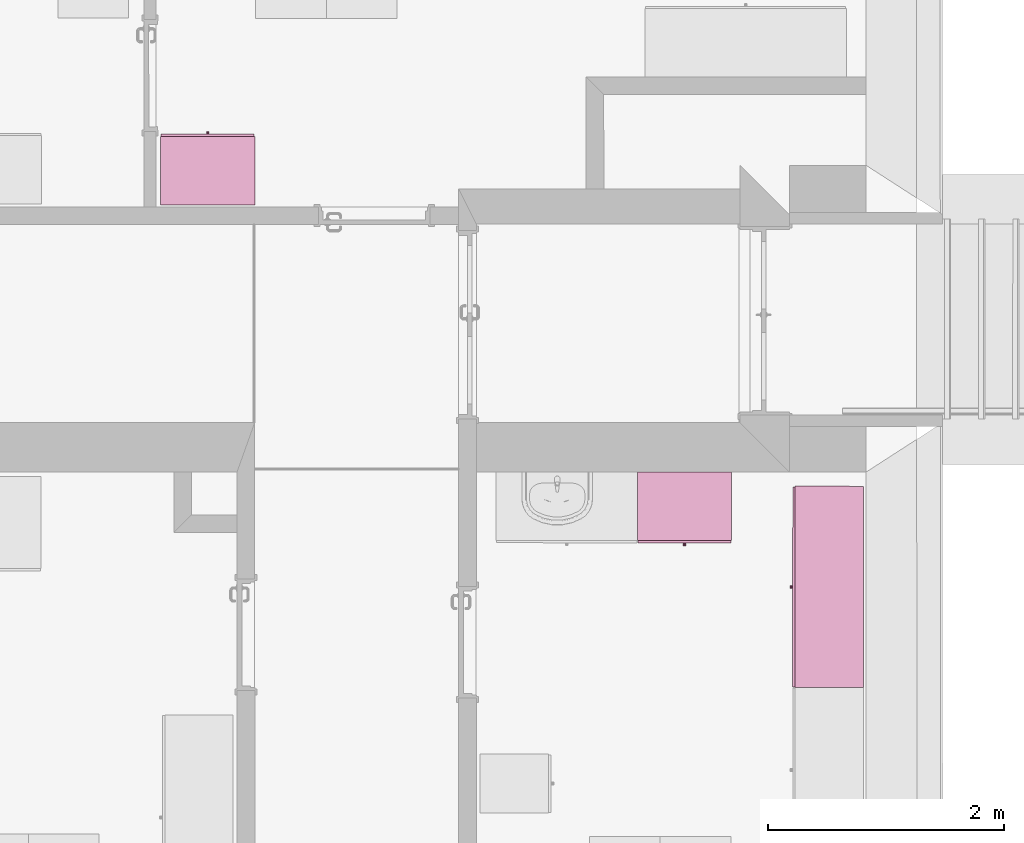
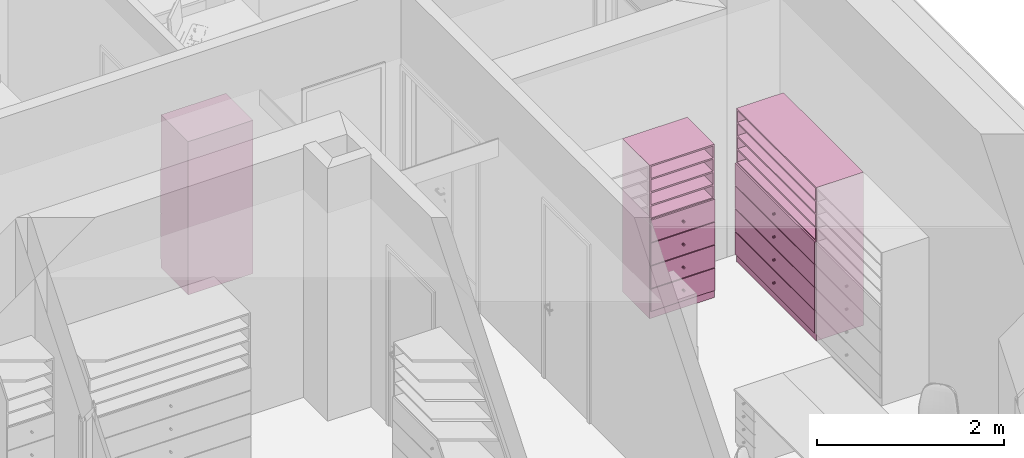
# One storey, part 145 of 194: 3 furnishings.
"""IFC2X3 building model written with IfcOpenShell, lengths in millimetres."""

from ifc_helpers import new_model, entity, si_unit, converted_unit, derived_unit, money_unit, direction, frame, origin_with_axes, place, context, subcontext, project, spatial, faceted_brep, source, transform, mapped, type_object, element, save


model = new_model("IFC2X3")

# Units and contexts
model_context = context("Model", 3, precision=1e-05, world=origin_with_axes(), true_north=direction((0.0, 1.0)))
body_context = subcontext(model_context, "Body", "Model", "MODEL_VIEW")
ifc_project = project(units=[si_unit("LENGTHUNIT", "METRE", prefix="MILLI"), si_unit("AREAUNIT", "SQUARE_METRE"), si_unit("VOLUMEUNIT", "CUBIC_METRE"), converted_unit("PLANEANGLEUNIT", "DEGREE", entity("IfcPlaneAngleMeasure", 0.0174532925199), si_unit("PLANEANGLEUNIT", "RADIAN"), dimensions=[0, 0, 0, 0, 0, 0, 0]), si_unit("SOLIDANGLEUNIT", "STERADIAN"), money_unit("EUR"), converted_unit("TIMEUNIT", "Year", entity("IfcTimeMeasure", 31556926.0), si_unit("TIMEUNIT", "SECOND"), dimensions=[0, 0, 1, 0, 0, 0, 0]), si_unit("MASSUNIT", "GRAM", prefix="KILO"), si_unit("THERMODYNAMICTEMPERATUREUNIT", "DEGREE_CELSIUS"), si_unit("LUMINOUSINTENSITYUNIT", "LUMEN"), si_unit("ENERGYUNIT", "JOULE", prefix="MEGA"), derived_unit("THERMALCONDUCTANCEUNIT", [(si_unit("POWERUNIT", "WATT"), 1), (si_unit("LENGTHUNIT", "METRE"), -1), (si_unit("THERMODYNAMICTEMPERATUREUNIT", "KELVIN"), -1)]), derived_unit("SPECIFICHEATCAPACITYUNIT", [(si_unit("ENERGYUNIT", "JOULE"), 1), (si_unit("MASSUNIT", "GRAM", prefix="KILO"), -1), (si_unit("THERMODYNAMICTEMPERATUREUNIT", "KELVIN"), -1)]), derived_unit("MASSDENSITYUNIT", [(si_unit("MASSUNIT", "GRAM", prefix="KILO"), 1), (si_unit("VOLUMEUNIT", "CUBIC_METRE"), -1)])], contexts=[model_context])

# Site, building, storey
site_placement = place(None, origin_with_axes())
site = spatial("IfcSite", under=ifc_project, at=site_placement, Name="Site", CompositionType="ELEMENT")
building_placement = place(site_placement, origin_with_axes())
building = spatial("IfcBuilding", under=site, at=building_placement, Name="Building", CompositionType="ELEMENT")
storey_placement = place(building_placement, frame((0.0, 0.0, 3000.0), z_axis=(0.0, 0.0, 1.0), x_axis=(1.0, 0.0, 0.0)))
storey = spatial("IfcBuildingStorey", under=building, at=storey_placement, Name="2 KORRUS", CompositionType="ELEMENT", Elevation=3000.0)

# Furnishings
furnishing_element_type_1 = type_object("IfcFurnishingElementType", Name="Model Element 35")
shared_shape_1 = source(origin_with_axes(), body_context, "Body", "Brep", [
    faceted_brep([(1709.22062814, 19.0, 0.0), (0.0, 19.0, 0.0), (0.0, 600.0, 0.0), (1709.22062814, 600.0, 0.0), (1709.22062814, 19.0, 100.0), (0.0, 19.0, 100.0), (0.0, 600.0, 100.0), (1709.22062814, 600.0, 100.0)], [[[0, 1, 2, 3]], [[1, 0, 4, 5]], [[2, 1, 5, 6]], [[3, 2, 6, 7]], [[0, 3, 7, 4]], [[5, 4, 7, 6]]]),
    faceted_brep([(19.0, 600.0, 119.0), (19.0, 581.0, 119.0), (19.0, 581.0, 1981.0), (19.0, 600.0, 1981.0), (1690.22062814, 600.0, 119.0), (1690.22062814, 581.0, 119.0), (1690.22062814, 581.0, 1981.0), (1690.22062814, 600.0, 1981.0)], [[[0, 1, 2, 3]], [[0, 4, 5, 1]], [[1, 5, 6, 2]], [[3, 2, 6, 7]], [[4, 0, 3, 7]], [[5, 4, 7, 6]]]),
    faceted_brep([(1709.22062814, 19.0, 100.0), (1690.22062814, 19.0, 100.0), (1690.22062814, 600.0, 100.0), (1709.22062814, 600.0, 100.0), (1709.22062814, 19.0, 2000.0), (1690.22062814, 19.0, 2000.0), (1690.22062814, 600.0, 2000.0), (1709.22062814, 600.0, 2000.0)], [[[0, 1, 2, 3]], [[1, 0, 4, 5]], [[2, 1, 5, 6]], [[3, 2, 6, 7]], [[0, 3, 7, 4]], [[5, 4, 7, 6]]]),
    faceted_brep([(19.0, 19.0, 100.0), (0.0, 19.0, 100.0), (0.0, 600.0, 100.0), (19.0, 600.0, 100.0), (19.0, 19.0, 2000.0), (0.0, 19.0, 2000.0), (0.0, 600.0, 2000.0), (19.0, 600.0, 2000.0)], [[[0, 1, 2, 3]], [[1, 0, 4, 5]], [[2, 1, 5, 6]], [[3, 2, 6, 7]], [[0, 3, 7, 4]], [[5, 4, 7, 6]]]),
    faceted_brep([(1690.22062814, 19.0, 100.0), (19.0, 19.0, 100.0), (19.0, 600.0, 100.0), (1690.22062814, 600.0, 100.0), (1690.22062814, 19.0, 119.0), (19.0, 19.0, 119.0), (19.0, 600.0, 119.0), (1690.22062814, 600.0, 119.0)], [[[0, 1, 2, 3]], [[1, 0, 4, 5]], [[2, 1, 5, 6]], [[3, 2, 6, 7]], [[0, 3, 7, 4]], [[5, 4, 7, 6]]]),
    faceted_brep([(1690.22062814, 19.0, 1981.0), (19.0, 19.0, 1981.0), (19.0, 600.0, 1981.0), (1690.22062814, 600.0, 1981.0), (1690.22062814, 19.0, 2000.0), (19.0, 19.0, 2000.0), (19.0, 600.0, 2000.0), (1690.22062814, 600.0, 2000.0)], [[[0, 1, 2, 3]], [[1, 0, 4, 5]], [[2, 1, 5, 6]], [[3, 2, 6, 7]], [[0, 3, 7, 4]], [[5, 4, 7, 6]]]),
    faceted_brep([(5.0, 19.0, 105.0), (1704.22062814, 19.0, 105.0), (1704.22062814, 0.0, 105.0), (5.0, 0.0, 105.0), (5.0, 19.0, 395.0), (1704.22062814, 19.0, 395.0), (1704.22062814, 0.0, 395.0), (5.0, 0.0, 395.0)], [[[0, 1, 2, 3]], [[0, 4, 5, 1]], [[1, 5, 6, 2]], [[3, 2, 6, 7]], [[4, 0, 3, 7]], [[5, 4, 7, 6]]]),
    faceted_brep([(865.002618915, 0.0, 244.0), (860.610314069, 0.0, 239.607695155), (854.610314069, 0.0, 238.0), (848.610314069, 0.0, 239.607695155), (844.218009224, 0.0, 244.0), (842.610314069, 0.0, 250.0), (844.218009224, 0.0, 256.0), (848.610314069, 0.0, 260.392304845), (854.610314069, 0.0, 262.0), (860.610314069, 0.0, 260.392304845), (865.002618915, 0.0, 256.0), (866.610314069, 0.0, 250.0), (865.002618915, -25.0, 244.0), (860.610314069, -25.0, 239.607695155), (854.610314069, -25.0, 238.0), (848.610314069, -25.0, 239.607695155), (844.218009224, -25.0, 244.0), (842.610314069, -25.0, 250.0), (844.218009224, -25.0, 256.0), (848.610314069, -25.0, 260.392304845), (854.610314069, -25.0, 262.0), (860.610314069, -25.0, 260.392304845), (865.002618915, -25.0, 256.0), (866.610314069, -25.0, 250.0)], [[[0, 1, 2, 3, 4, 5, 6, 7, 8, 9, 10, 11]], [[1, 0, 12, 13]], [[2, 1, 13, 14]], [[3, 2, 14, 15]], [[4, 3, 15, 16]], [[5, 4, 16, 17]], [[6, 5, 17, 18]], [[7, 6, 18, 19]], [[8, 7, 19, 20]], [[9, 8, 20, 21]], [[10, 9, 21, 22]], [[11, 10, 22, 23]], [[0, 11, 23, 12]], [[12, 23, 22, 21, 20, 19, 18, 17, 16, 15, 14, 13]]]),
    faceted_brep([(5.0, 19.0, 405.0), (1704.22062814, 19.0, 405.0), (1704.22062814, 0.0, 405.0), (5.0, 0.0, 405.0), (5.0, 19.0, 695.0), (1704.22062814, 19.0, 695.0), (1704.22062814, 0.0, 695.0), (5.0, 0.0, 695.0)], [[[0, 1, 2, 3]], [[0, 4, 5, 1]], [[1, 5, 6, 2]], [[3, 2, 6, 7]], [[4, 0, 3, 7]], [[5, 4, 7, 6]]]),
    faceted_brep([(865.002618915, 0.0, 544.0), (860.610314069, 0.0, 539.607695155), (854.610314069, 0.0, 538.0), (848.610314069, 0.0, 539.607695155), (844.218009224, 0.0, 544.0), (842.610314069, 0.0, 550.0), (844.218009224, 0.0, 556.0), (848.610314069, 0.0, 560.392304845), (854.610314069, 0.0, 562.0), (860.610314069, 0.0, 560.392304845), (865.002618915, 0.0, 556.0), (866.610314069, 0.0, 550.0), (865.002618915, -25.0, 544.0), (860.610314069, -25.0, 539.607695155), (854.610314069, -25.0, 538.0), (848.610314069, -25.0, 539.607695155), (844.218009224, -25.0, 544.0), (842.610314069, -25.0, 550.0), (844.218009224, -25.0, 556.0), (848.610314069, -25.0, 560.392304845), (854.610314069, -25.0, 562.0), (860.610314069, -25.0, 560.392304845), (865.002618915, -25.0, 556.0), (866.610314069, -25.0, 550.0)], [[[0, 1, 2, 3, 4, 5, 6, 7, 8, 9, 10, 11]], [[1, 0, 12, 13]], [[2, 1, 13, 14]], [[3, 2, 14, 15]], [[4, 3, 15, 16]], [[5, 4, 16, 17]], [[6, 5, 17, 18]], [[7, 6, 18, 19]], [[8, 7, 19, 20]], [[9, 8, 20, 21]], [[10, 9, 21, 22]], [[11, 10, 22, 23]], [[0, 11, 23, 12]], [[12, 23, 22, 21, 20, 19, 18, 17, 16, 15, 14, 13]]]),
    faceted_brep([(5.0, 19.0, 705.0), (1704.22062814, 19.0, 705.0), (1704.22062814, 0.0, 705.0), (5.0, 0.0, 705.0), (5.0, 19.0, 995.0), (1704.22062814, 19.0, 995.0), (1704.22062814, 0.0, 995.0), (5.0, 0.0, 995.0)], [[[0, 1, 2, 3]], [[0, 4, 5, 1]], [[1, 5, 6, 2]], [[3, 2, 6, 7]], [[4, 0, 3, 7]], [[5, 4, 7, 6]]]),
    faceted_brep([(865.002618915, 0.0, 844.0), (860.610314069, 0.0, 839.607695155), (854.610314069, 0.0, 838.0), (848.610314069, 0.0, 839.607695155), (844.218009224, 0.0, 844.0), (842.610314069, 0.0, 850.0), (844.218009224, 0.0, 856.0), (848.610314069, 0.0, 860.392304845), (854.610314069, 0.0, 862.0), (860.610314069, 0.0, 860.392304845), (865.002618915, 0.0, 856.0), (866.610314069, 0.0, 850.0), (865.002618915, -25.0, 844.0), (860.610314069, -25.0, 839.607695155), (854.610314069, -25.0, 838.0), (848.610314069, -25.0, 839.607695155), (844.218009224, -25.0, 844.0), (842.610314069, -25.0, 850.0), (844.218009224, -25.0, 856.0), (848.610314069, -25.0, 860.392304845), (854.610314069, -25.0, 862.0), (860.610314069, -25.0, 860.392304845), (865.002618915, -25.0, 856.0), (866.610314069, -25.0, 850.0)], [[[0, 1, 2, 3, 4, 5, 6, 7, 8, 9, 10, 11]], [[1, 0, 12, 13]], [[2, 1, 13, 14]], [[3, 2, 14, 15]], [[4, 3, 15, 16]], [[5, 4, 16, 17]], [[6, 5, 17, 18]], [[7, 6, 18, 19]], [[8, 7, 19, 20]], [[9, 8, 20, 21]], [[10, 9, 21, 22]], [[11, 10, 22, 23]], [[0, 11, 23, 12]], [[12, 23, 22, 21, 20, 19, 18, 17, 16, 15, 14, 13]]]),
    faceted_brep([(5.0, 19.0, 1005.0), (1704.22062814, 19.0, 1005.0), (1704.22062814, 0.0, 1005.0), (5.0, 0.0, 1005.0), (5.0, 19.0, 1295.0), (1704.22062814, 19.0, 1295.0), (1704.22062814, 0.0, 1295.0), (5.0, 0.0, 1295.0)], [[[0, 1, 2, 3]], [[0, 4, 5, 1]], [[1, 5, 6, 2]], [[3, 2, 6, 7]], [[4, 0, 3, 7]], [[5, 4, 7, 6]]]),
    faceted_brep([(865.002618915, 0.0, 1144.0), (860.610314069, 0.0, 1139.60769515), (854.610314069, 0.0, 1138.0), (848.610314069, 0.0, 1139.60769515), (844.218009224, 0.0, 1144.0), (842.610314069, 0.0, 1150.0), (844.218009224, 0.0, 1156.0), (848.610314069, 0.0, 1160.39230485), (854.610314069, 0.0, 1162.0), (860.610314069, 0.0, 1160.39230485), (865.002618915, 0.0, 1156.0), (866.610314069, 0.0, 1150.0), (865.002618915, -25.0, 1144.0), (860.610314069, -25.0, 1139.60769515), (854.610314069, -25.0, 1138.0), (848.610314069, -25.0, 1139.60769515), (844.218009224, -25.0, 1144.0), (842.610314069, -25.0, 1150.0), (844.218009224, -25.0, 1156.0), (848.610314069, -25.0, 1160.39230485), (854.610314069, -25.0, 1162.0), (860.610314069, -25.0, 1160.39230485), (865.002618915, -25.0, 1156.0), (866.610314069, -25.0, 1150.0)], [[[0, 1, 2, 3, 4, 5, 6, 7, 8, 9, 10, 11]], [[1, 0, 12, 13]], [[2, 1, 13, 14]], [[3, 2, 14, 15]], [[4, 3, 15, 16]], [[5, 4, 16, 17]], [[6, 5, 17, 18]], [[7, 6, 18, 19]], [[8, 7, 19, 20]], [[9, 8, 20, 21]], [[10, 9, 21, 22]], [[11, 10, 22, 23]], [[0, 11, 23, 12]], [[12, 23, 22, 21, 20, 19, 18, 17, 16, 15, 14, 13]]]),
    faceted_brep([(19.0, 19.0, 390.5), (1690.22062814, 19.0, 390.5), (1690.22062814, 19.0, 409.5), (19.0, 19.0, 409.5), (19.0, 581.0, 390.5), (1690.22062814, 581.0, 390.5), (1690.22062814, 581.0, 409.5), (19.0, 581.0, 409.5)], [[[0, 1, 2, 3]], [[0, 4, 5, 1]], [[1, 5, 6, 2]], [[3, 2, 6, 7]], [[4, 0, 3, 7]], [[5, 4, 7, 6]]]),
    faceted_brep([(19.0, 19.0, 690.5), (1690.22062814, 19.0, 690.5), (1690.22062814, 19.0, 709.5), (19.0, 19.0, 709.5), (19.0, 581.0, 690.5), (1690.22062814, 581.0, 690.5), (1690.22062814, 581.0, 709.5), (19.0, 581.0, 709.5)], [[[0, 1, 2, 3]], [[0, 4, 5, 1]], [[1, 5, 6, 2]], [[3, 2, 6, 7]], [[4, 0, 3, 7]], [[5, 4, 7, 6]]]),
    faceted_brep([(19.0, 19.0, 990.5), (1690.22062814, 19.0, 990.5), (1690.22062814, 19.0, 1009.5), (19.0, 19.0, 1009.5), (19.0, 581.0, 990.5), (1690.22062814, 581.0, 990.5), (1690.22062814, 581.0, 1009.5), (19.0, 581.0, 1009.5)], [[[0, 1, 2, 3]], [[0, 4, 5, 1]], [[1, 5, 6, 2]], [[3, 2, 6, 7]], [[4, 0, 3, 7]], [[5, 4, 7, 6]]]),
    faceted_brep([(19.0, 19.0, 1290.5), (1690.22062814, 19.0, 1290.5), (1690.22062814, 19.0, 1309.5), (19.0, 19.0, 1309.5), (19.0, 581.0, 1290.5), (1690.22062814, 581.0, 1290.5), (1690.22062814, 581.0, 1309.5), (19.0, 581.0, 1309.5)], [[[0, 1, 2, 3]], [[0, 4, 5, 1]], [[1, 5, 6, 2]], [[3, 2, 6, 7]], [[4, 0, 3, 7]], [[5, 4, 7, 6]]]),
    faceted_brep([(1690.22062814, 19.0, 1463.125), (19.0, 19.0, 1463.125), (19.0, 581.0, 1463.125), (1690.22062814, 581.0, 1463.125), (1690.22062814, 19.0, 1482.125), (19.0, 19.0, 1482.125), (19.0, 581.0, 1482.125), (1690.22062814, 581.0, 1482.125)], [[[0, 1, 2, 3]], [[1, 0, 4, 5]], [[2, 1, 5, 6]], [[3, 2, 6, 7]], [[0, 3, 7, 4]], [[5, 4, 7, 6]]]),
    faceted_brep([(1690.22062814, 19.0, 1635.75), (19.0, 19.0, 1635.75), (19.0, 581.0, 1635.75), (1690.22062814, 581.0, 1635.75), (1690.22062814, 19.0, 1654.75), (19.0, 19.0, 1654.75), (19.0, 581.0, 1654.75), (1690.22062814, 581.0, 1654.75)], [[[0, 1, 2, 3]], [[1, 0, 4, 5]], [[2, 1, 5, 6]], [[3, 2, 6, 7]], [[0, 3, 7, 4]], [[5, 4, 7, 6]]]),
    faceted_brep([(1690.22062814, 19.0, 1808.375), (19.0, 19.0, 1808.375), (19.0, 581.0, 1808.375), (1690.22062814, 581.0, 1808.375), (1690.22062814, 19.0, 1827.375), (19.0, 19.0, 1827.375), (19.0, 581.0, 1827.375), (1690.22062814, 581.0, 1827.375)], [[[0, 1, 2, 3]], [[1, 0, 4, 5]], [[2, 1, 5, 6]], [[3, 2, 6, 7]], [[0, 3, 7, 4]], [[5, 4, 7, 6]]]),
])
furnishing_placement = place(storey_placement, frame((42570.7992562, 65090.4139508, 0.0), z_axis=(0.0, 0.0, 1.0), x_axis=(-0.00064265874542, -0.999999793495, 0.0)))
element("IfcFurnishingElement", 1, at=furnishing_placement, inside=storey, type_object=furnishing_element_type_1, Name="FU - 001", context=body_context, shape_type="MappedRepresentation", body=[
    mapped(shared_shape_1, transform((0.0, 0.0, 0.0))),
])
furnishing_element_type_2 = type_object("IfcFurnishingElementType", Name="Model Element 41")
shared_shape_2 = source(origin_with_axes(), body_context, "Body", "Brep", [
    faceted_brep([(800.0, 19.0, 0.0), (0.0, 19.0, 0.0), (0.0, 600.0, 0.0), (800.0, 600.0, 0.0), (800.0, 19.0, 100.0), (0.0, 19.0, 100.0), (0.0, 600.0, 100.0), (800.0, 600.0, 100.0)], [[[0, 1, 2, 3]], [[1, 0, 4, 5]], [[2, 1, 5, 6]], [[3, 2, 6, 7]], [[0, 3, 7, 4]], [[5, 4, 7, 6]]]),
    faceted_brep([(19.0, 600.0, 119.0), (19.0, 581.0, 119.0), (19.0, 581.0, 1981.0), (19.0, 600.0, 1981.0), (781.0, 600.0, 119.0), (781.0, 581.0, 119.0), (781.0, 581.0, 1981.0), (781.0, 600.0, 1981.0)], [[[0, 1, 2, 3]], [[0, 4, 5, 1]], [[1, 5, 6, 2]], [[3, 2, 6, 7]], [[4, 0, 3, 7]], [[5, 4, 7, 6]]]),
    faceted_brep([(800.0, 19.0, 100.0), (781.0, 19.0, 100.0), (781.0, 600.0, 100.0), (800.0, 600.0, 100.0), (800.0, 19.0, 2000.0), (781.0, 19.0, 2000.0), (781.0, 600.0, 2000.0), (800.0, 600.0, 2000.0)], [[[0, 1, 2, 3]], [[1, 0, 4, 5]], [[2, 1, 5, 6]], [[3, 2, 6, 7]], [[0, 3, 7, 4]], [[5, 4, 7, 6]]]),
    faceted_brep([(19.0, 19.0, 100.0), (0.0, 19.0, 100.0), (0.0, 600.0, 100.0), (19.0, 600.0, 100.0), (19.0, 19.0, 2000.0), (0.0, 19.0, 2000.0), (0.0, 600.0, 2000.0), (19.0, 600.0, 2000.0)], [[[0, 1, 2, 3]], [[1, 0, 4, 5]], [[2, 1, 5, 6]], [[3, 2, 6, 7]], [[0, 3, 7, 4]], [[5, 4, 7, 6]]]),
    faceted_brep([(781.0, 19.0, 100.0), (19.0, 19.0, 100.0), (19.0, 600.0, 100.0), (781.0, 600.0, 100.0), (781.0, 19.0, 119.0), (19.0, 19.0, 119.0), (19.0, 600.0, 119.0), (781.0, 600.0, 119.0)], [[[0, 1, 2, 3]], [[1, 0, 4, 5]], [[2, 1, 5, 6]], [[3, 2, 6, 7]], [[0, 3, 7, 4]], [[5, 4, 7, 6]]]),
    faceted_brep([(781.0, 19.0, 1981.0), (19.0, 19.0, 1981.0), (19.0, 600.0, 1981.0), (781.0, 600.0, 1981.0), (781.0, 19.0, 2000.0), (19.0, 19.0, 2000.0), (19.0, 600.0, 2000.0), (781.0, 600.0, 2000.0)], [[[0, 1, 2, 3]], [[1, 0, 4, 5]], [[2, 1, 5, 6]], [[3, 2, 6, 7]], [[0, 3, 7, 4]], [[5, 4, 7, 6]]]),
    faceted_brep([(5.0, 19.0, 105.0), (795.0, 19.0, 105.0), (795.0, 0.0, 105.0), (5.0, 0.0, 105.0), (5.0, 19.0, 395.0), (795.0, 19.0, 395.0), (795.0, 0.0, 395.0), (5.0, 0.0, 395.0)], [[[0, 1, 2, 3]], [[0, 4, 5, 1]], [[1, 5, 6, 2]], [[3, 2, 6, 7]], [[4, 0, 3, 7]], [[5, 4, 7, 6]]]),
    faceted_brep([(410.392304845, 0.0, 244.0), (406.0, 0.0, 239.607695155), (400.0, 0.0, 238.0), (394.0, 0.0, 239.607695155), (389.607695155, 0.0, 244.0), (388.0, 0.0, 250.0), (389.607695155, 0.0, 256.0), (394.0, 0.0, 260.392304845), (400.0, 0.0, 262.0), (406.0, 0.0, 260.392304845), (410.392304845, 0.0, 256.0), (412.0, 0.0, 250.0), (410.392304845, -25.0, 244.0), (406.0, -25.0, 239.607695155), (400.0, -25.0, 238.0), (394.0, -25.0, 239.607695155), (389.607695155, -25.0, 244.0), (388.0, -25.0, 250.0), (389.607695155, -25.0, 256.0), (394.0, -25.0, 260.392304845), (400.0, -25.0, 262.0), (406.0, -25.0, 260.392304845), (410.392304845, -25.0, 256.0), (412.0, -25.0, 250.0)], [[[0, 1, 2, 3, 4, 5, 6, 7, 8, 9, 10, 11]], [[1, 0, 12, 13]], [[2, 1, 13, 14]], [[3, 2, 14, 15]], [[4, 3, 15, 16]], [[5, 4, 16, 17]], [[6, 5, 17, 18]], [[7, 6, 18, 19]], [[8, 7, 19, 20]], [[9, 8, 20, 21]], [[10, 9, 21, 22]], [[11, 10, 22, 23]], [[0, 11, 23, 12]], [[12, 23, 22, 21, 20, 19, 18, 17, 16, 15, 14, 13]]]),
    faceted_brep([(5.0, 19.0, 405.0), (795.0, 19.0, 405.0), (795.0, 0.0, 405.0), (5.0, 0.0, 405.0), (5.0, 19.0, 695.0), (795.0, 19.0, 695.0), (795.0, 0.0, 695.0), (5.0, 0.0, 695.0)], [[[0, 1, 2, 3]], [[0, 4, 5, 1]], [[1, 5, 6, 2]], [[3, 2, 6, 7]], [[4, 0, 3, 7]], [[5, 4, 7, 6]]]),
    faceted_brep([(410.392304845, 0.0, 544.0), (406.0, 0.0, 539.607695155), (400.0, 0.0, 538.0), (394.0, 0.0, 539.607695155), (389.607695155, 0.0, 544.0), (388.0, 0.0, 550.0), (389.607695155, 0.0, 556.0), (394.0, 0.0, 560.392304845), (400.0, 0.0, 562.0), (406.0, 0.0, 560.392304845), (410.392304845, 0.0, 556.0), (412.0, 0.0, 550.0), (410.392304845, -25.0, 544.0), (406.0, -25.0, 539.607695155), (400.0, -25.0, 538.0), (394.0, -25.0, 539.607695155), (389.607695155, -25.0, 544.0), (388.0, -25.0, 550.0), (389.607695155, -25.0, 556.0), (394.0, -25.0, 560.392304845), (400.0, -25.0, 562.0), (406.0, -25.0, 560.392304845), (410.392304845, -25.0, 556.0), (412.0, -25.0, 550.0)], [[[0, 1, 2, 3, 4, 5, 6, 7, 8, 9, 10, 11]], [[1, 0, 12, 13]], [[2, 1, 13, 14]], [[3, 2, 14, 15]], [[4, 3, 15, 16]], [[5, 4, 16, 17]], [[6, 5, 17, 18]], [[7, 6, 18, 19]], [[8, 7, 19, 20]], [[9, 8, 20, 21]], [[10, 9, 21, 22]], [[11, 10, 22, 23]], [[0, 11, 23, 12]], [[12, 23, 22, 21, 20, 19, 18, 17, 16, 15, 14, 13]]]),
    faceted_brep([(5.0, 19.0, 705.0), (795.0, 19.0, 705.0), (795.0, 0.0, 705.0), (5.0, 0.0, 705.0), (5.0, 19.0, 995.0), (795.0, 19.0, 995.0), (795.0, 0.0, 995.0), (5.0, 0.0, 995.0)], [[[0, 1, 2, 3]], [[0, 4, 5, 1]], [[1, 5, 6, 2]], [[3, 2, 6, 7]], [[4, 0, 3, 7]], [[5, 4, 7, 6]]]),
    faceted_brep([(410.392304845, 0.0, 844.0), (406.0, 0.0, 839.607695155), (400.0, 0.0, 838.0), (394.0, 0.0, 839.607695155), (389.607695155, 0.0, 844.0), (388.0, 0.0, 850.0), (389.607695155, 0.0, 856.0), (394.0, 0.0, 860.392304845), (400.0, 0.0, 862.0), (406.0, 0.0, 860.392304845), (410.392304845, 0.0, 856.0), (412.0, 0.0, 850.0), (410.392304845, -25.0, 844.0), (406.0, -25.0, 839.607695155), (400.0, -25.0, 838.0), (394.0, -25.0, 839.607695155), (389.607695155, -25.0, 844.0), (388.0, -25.0, 850.0), (389.607695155, -25.0, 856.0), (394.0, -25.0, 860.392304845), (400.0, -25.0, 862.0), (406.0, -25.0, 860.392304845), (410.392304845, -25.0, 856.0), (412.0, -25.0, 850.0)], [[[0, 1, 2, 3, 4, 5, 6, 7, 8, 9, 10, 11]], [[1, 0, 12, 13]], [[2, 1, 13, 14]], [[3, 2, 14, 15]], [[4, 3, 15, 16]], [[5, 4, 16, 17]], [[6, 5, 17, 18]], [[7, 6, 18, 19]], [[8, 7, 19, 20]], [[9, 8, 20, 21]], [[10, 9, 21, 22]], [[11, 10, 22, 23]], [[0, 11, 23, 12]], [[12, 23, 22, 21, 20, 19, 18, 17, 16, 15, 14, 13]]]),
    faceted_brep([(5.0, 19.0, 1005.0), (795.0, 19.0, 1005.0), (795.0, 0.0, 1005.0), (5.0, 0.0, 1005.0), (5.0, 19.0, 1295.0), (795.0, 19.0, 1295.0), (795.0, 0.0, 1295.0), (5.0, 0.0, 1295.0)], [[[0, 1, 2, 3]], [[0, 4, 5, 1]], [[1, 5, 6, 2]], [[3, 2, 6, 7]], [[4, 0, 3, 7]], [[5, 4, 7, 6]]]),
    faceted_brep([(410.392304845, 0.0, 1144.0), (406.0, 0.0, 1139.60769515), (400.0, 0.0, 1138.0), (394.0, 0.0, 1139.60769515), (389.607695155, 0.0, 1144.0), (388.0, 0.0, 1150.0), (389.607695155, 0.0, 1156.0), (394.0, 0.0, 1160.39230485), (400.0, 0.0, 1162.0), (406.0, 0.0, 1160.39230485), (410.392304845, 0.0, 1156.0), (412.0, 0.0, 1150.0), (410.392304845, -25.0, 1144.0), (406.0, -25.0, 1139.60769515), (400.0, -25.0, 1138.0), (394.0, -25.0, 1139.60769515), (389.607695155, -25.0, 1144.0), (388.0, -25.0, 1150.0), (389.607695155, -25.0, 1156.0), (394.0, -25.0, 1160.39230485), (400.0, -25.0, 1162.0), (406.0, -25.0, 1160.39230485), (410.392304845, -25.0, 1156.0), (412.0, -25.0, 1150.0)], [[[0, 1, 2, 3, 4, 5, 6, 7, 8, 9, 10, 11]], [[1, 0, 12, 13]], [[2, 1, 13, 14]], [[3, 2, 14, 15]], [[4, 3, 15, 16]], [[5, 4, 16, 17]], [[6, 5, 17, 18]], [[7, 6, 18, 19]], [[8, 7, 19, 20]], [[9, 8, 20, 21]], [[10, 9, 21, 22]], [[11, 10, 22, 23]], [[0, 11, 23, 12]], [[12, 23, 22, 21, 20, 19, 18, 17, 16, 15, 14, 13]]]),
    faceted_brep([(19.0, 19.0, 390.5), (781.0, 19.0, 390.5), (781.0, 19.0, 409.5), (19.0, 19.0, 409.5), (19.0, 581.0, 390.5), (781.0, 581.0, 390.5), (781.0, 581.0, 409.5), (19.0, 581.0, 409.5)], [[[0, 1, 2, 3]], [[0, 4, 5, 1]], [[1, 5, 6, 2]], [[3, 2, 6, 7]], [[4, 0, 3, 7]], [[5, 4, 7, 6]]]),
    faceted_brep([(19.0, 19.0, 690.5), (781.0, 19.0, 690.5), (781.0, 19.0, 709.5), (19.0, 19.0, 709.5), (19.0, 581.0, 690.5), (781.0, 581.0, 690.5), (781.0, 581.0, 709.5), (19.0, 581.0, 709.5)], [[[0, 1, 2, 3]], [[0, 4, 5, 1]], [[1, 5, 6, 2]], [[3, 2, 6, 7]], [[4, 0, 3, 7]], [[5, 4, 7, 6]]]),
    faceted_brep([(19.0, 19.0, 990.5), (781.0, 19.0, 990.5), (781.0, 19.0, 1009.5), (19.0, 19.0, 1009.5), (19.0, 581.0, 990.5), (781.0, 581.0, 990.5), (781.0, 581.0, 1009.5), (19.0, 581.0, 1009.5)], [[[0, 1, 2, 3]], [[0, 4, 5, 1]], [[1, 5, 6, 2]], [[3, 2, 6, 7]], [[4, 0, 3, 7]], [[5, 4, 7, 6]]]),
    faceted_brep([(19.0, 19.0, 1290.5), (781.0, 19.0, 1290.5), (781.0, 19.0, 1309.5), (19.0, 19.0, 1309.5), (19.0, 581.0, 1290.5), (781.0, 581.0, 1290.5), (781.0, 581.0, 1309.5), (19.0, 581.0, 1309.5)], [[[0, 1, 2, 3]], [[0, 4, 5, 1]], [[1, 5, 6, 2]], [[3, 2, 6, 7]], [[4, 0, 3, 7]], [[5, 4, 7, 6]]]),
    faceted_brep([(781.0, 19.0, 1463.125), (19.0, 19.0, 1463.125), (19.0, 581.0, 1463.125), (781.0, 581.0, 1463.125), (781.0, 19.0, 1482.125), (19.0, 19.0, 1482.125), (19.0, 581.0, 1482.125), (781.0, 581.0, 1482.125)], [[[0, 1, 2, 3]], [[1, 0, 4, 5]], [[2, 1, 5, 6]], [[3, 2, 6, 7]], [[0, 3, 7, 4]], [[5, 4, 7, 6]]]),
    faceted_brep([(781.0, 19.0, 1635.75), (19.0, 19.0, 1635.75), (19.0, 581.0, 1635.75), (781.0, 581.0, 1635.75), (781.0, 19.0, 1654.75), (19.0, 19.0, 1654.75), (19.0, 581.0, 1654.75), (781.0, 581.0, 1654.75)], [[[0, 1, 2, 3]], [[1, 0, 4, 5]], [[2, 1, 5, 6]], [[3, 2, 6, 7]], [[0, 3, 7, 4]], [[5, 4, 7, 6]]]),
    faceted_brep([(781.0, 19.0, 1808.375), (19.0, 19.0, 1808.375), (19.0, 581.0, 1808.375), (781.0, 581.0, 1808.375), (781.0, 19.0, 1827.375), (19.0, 19.0, 1827.375), (19.0, 581.0, 1827.375), (781.0, 581.0, 1827.375)], [[[0, 1, 2, 3]], [[1, 0, 4, 5]], [[2, 1, 5, 6]], [[3, 2, 6, 7]], [[0, 3, 7, 4]], [[5, 4, 7, 6]]]),
])
for number, where, z_axis, x_axis, name in (
    (2, (38001.9100402, 68079.8414745, 0.0), (0.0, 0.0, 1.0), (-1.0, 0.0, 0.0), "FU - 001"),
    (3, (41251.2726597, 64610.0284798, 0.0), (0.0, 0.0, 1.0), (0.999999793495, -0.00064265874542, 0.0), "FU - 001"),
):
    element("IfcFurnishingElement", number, at=place(storey_placement, frame(where, z_axis=z_axis, x_axis=x_axis)), inside=storey, type_object=furnishing_element_type_2, Name=name, context=body_context, shape_type="MappedRepresentation", body=[
        mapped(shared_shape_2, transform((0.0, 0.0, 0.0))),
    ])

save(model, "model.ifc")
